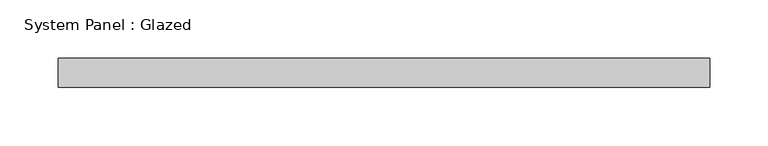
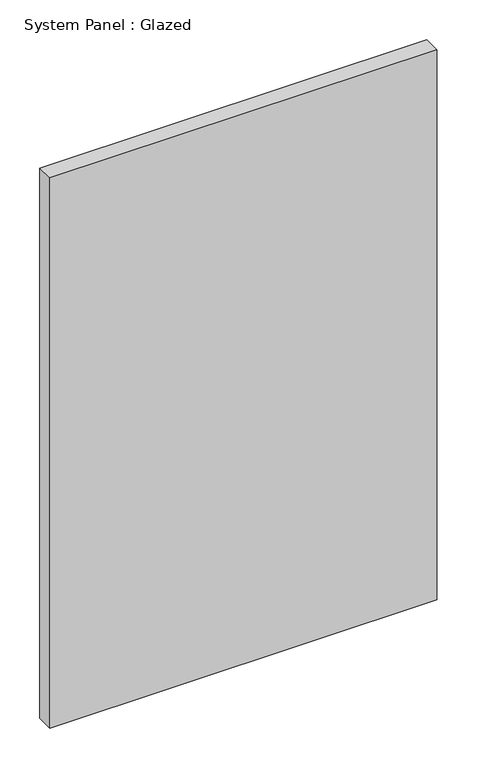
"""IFC4 building model written with IfcOpenShell, lengths in millimetres: plate geometry, System Panel : Glazed."""

from ifc_helpers import new_model, si_unit, origin, origin_with_axes, place, context, project, spatial, polyline, outline, extrude, source, transform, mapped, element, save


def system_panel_glazed_5f0a6860(model_context):
    return source(origin(), model_context, "Body", "SweptSolid", [
        extrude(outline(polyline([(280.0, 24.5), (-280.0, 24.5), (-280.0, 49.5), (280.0, 49.5), (280.0, 24.5)])), origin_with_axes(), (0.0, 0.0, 1.0), 841.6666667),
    ])


if __name__ == "__main__":
    model = new_model("IFC4")
    model_context = context("Model", 3, world=origin())
    ifc_project = project(units=[si_unit("LENGTHUNIT", "METRE", prefix="MILLI")], contexts=[model_context])
    site = spatial("IfcSite", under=ifc_project)
    building = spatial("IfcBuilding", under=site)
    placement = place(None, origin())
    system_panel_glazed_shape = system_panel_glazed_5f0a6860(model_context)
    element("IfcPlate", 1, ObjectType="System Panel : Glazed", at=placement, inside=building, context=model_context, shape_type="MappedRepresentation", body=[
        mapped(system_panel_glazed_shape, transform((0.0, 0.0, 0.0), x_axis=(1.0, 0.0, 0.0), y_axis=(0.0, 1.0, 0.0), z_axis=(0.0, 0.0, 1.0))),
    ])
    save(model, "model.ifc")
